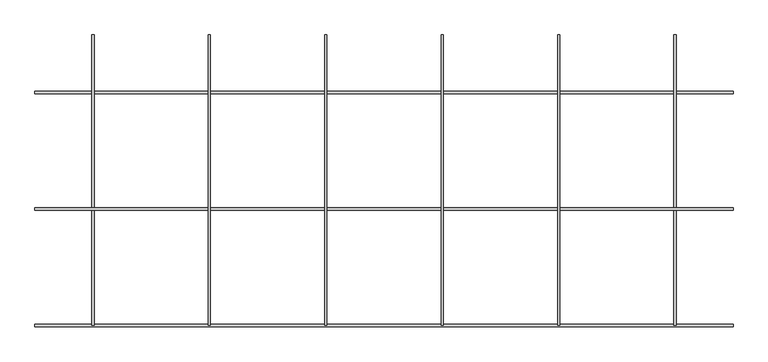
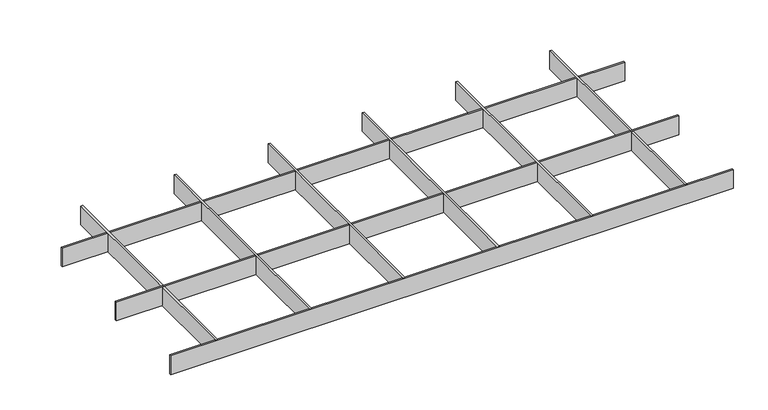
"""IFC4 building model written with IfcOpenShell, lengths in millimetres: proxy geometry, durlum_GEO_panel : durlum_GEO_4_width_cut."""

from ifc_helpers import new_model, si_unit, origin, origin_with_axes, place, context, project, spatial, polyline, outline, extrude, source, transform, mapped, element, save


def generic_models_e4501f19(model_context):
    return source(origin(), model_context, "Body", "SweptSolid", [
        extrude(outline(polyline([(298.0, 249.5), (302.0, 249.5), (302.0, -249.5), (298.0, -249.5), (298.0, 249.5)])), origin_with_axes(), (0.0, 0.0, 1.0), 42.0),
        extrude(outline(polyline([(98.0, 249.5), (102.0, 249.5), (102.0, -249.5), (98.0, -249.5), (98.0, 249.5)])), origin_with_axes(), (0.0, 0.0, 1.0), 42.0),
        extrude(outline(polyline([(-102.0, 249.5), (-98.0, 249.5), (-98.0, -249.5), (-102.0, -249.5), (-102.0, 249.5)])), origin_with_axes(), (0.0, 0.0, 1.0), 42.0),
        extrude(outline(polyline([(-302.0, 249.5), (-298.0, 249.5), (-298.0, -249.5), (-302.0, -249.5), (-302.0, 249.5)])), origin_with_axes(), (0.0, 0.0, 1.0), 42.0),
        extrude(outline(polyline([(599.5, -47.5), (599.5, -51.5), (-599.5, -51.5), (-599.5, -47.5), (599.5, -47.5)])), origin_with_axes(), (0.0, 0.0, 1.0), 42.0),
        extrude(outline(polyline([(498.0, 249.5), (502.0, 249.5), (502.0, -249.5), (498.0, -249.5), (498.0, 249.5)])), origin_with_axes(), (0.0, 0.0, 1.0), 42.0),
        extrude(outline(polyline([(-502.0, 249.5), (-498.0, 249.5), (-498.0, -249.5), (-502.0, -249.5), (-502.0, 249.5)])), origin_with_axes(), (0.0, 0.0, 1.0), 42.0),
        extrude(outline(polyline([(599.5, -247.5), (599.5, -251.5), (-599.5, -251.5), (-599.5, -247.5), (599.5, -247.5)])), origin_with_axes(), (0.0, 0.0, 1.0), 42.0),
        extrude(outline(polyline([(599.5, 152.5), (599.5, 148.5), (-599.5, 148.5), (-599.5, 152.5), (599.5, 152.5)])), origin_with_axes(), (0.0, 0.0, 1.0), 42.0),
    ])


if __name__ == "__main__":
    model = new_model("IFC4")
    model_context = context("Model", 3, world=origin())
    ifc_project = project(units=[si_unit("LENGTHUNIT", "METRE", prefix="MILLI")], contexts=[model_context])
    site = spatial("IfcSite", under=ifc_project)
    building = spatial("IfcBuilding", under=site)
    placement = place(None, origin())
    generic_models_shape = generic_models_e4501f19(model_context)
    element("IfcBuildingElementProxy", 1, Name="durlum_GEO_panel : durlum_GEO_4_width_cut", ObjectType="durlum_GEO_panel : durlum_GEO_4_width_cut", at=placement, inside=building, context=model_context, shape_type="MappedRepresentation", body=[
        mapped(generic_models_shape, transform((0.0, 0.0, 0.0), x_axis=(1.0, 0.0, 0.0), y_axis=(0.0, 1.0, 0.0), z_axis=(0.0, 0.0, 1.0))),
    ])
    save(model, "model.ifc")
